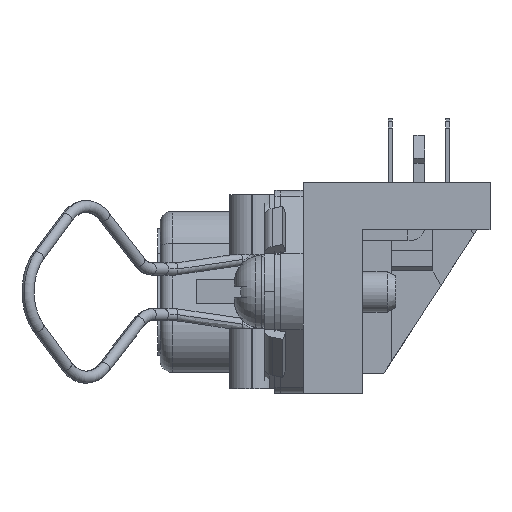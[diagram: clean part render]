
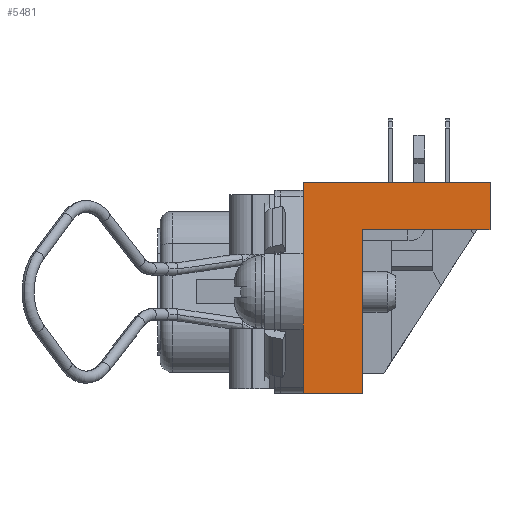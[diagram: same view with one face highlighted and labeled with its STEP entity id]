
A CAD part, left-side view. The second image highlights one B-rep face of the part: STEP entity #5481.
In plain terms, the highlighted planar face has unit normal (-1, 0, 0).
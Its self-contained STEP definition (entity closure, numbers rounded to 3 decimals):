
#349 = VERTEX_POINT ( 'NONE', #57065 ) ;
#599 = LINE ( 'NONE', #52407, #23680 ) ;
#966 = EDGE_CURVE ( 'NONE', #13131, #28922, #33584, .T. ) ;
#1679 = DIRECTION ( 'NONE',  ( 0., 1., 0. ) ) ;
#2400 = FACE_OUTER_BOUND ( 'NONE', #19809, .T. ) ;
#5481 = ADVANCED_FACE ( 'NONE', ( #2400 ), #42736, .T. ) ;
#5784 = VERTEX_POINT ( 'NONE', #31983 ) ;
#5996 = EDGE_CURVE ( 'NONE', #5784, #7111, #7366, .T. ) ;
#6347 = DIRECTION ( 'NONE',  ( 0., -1., 0. ) ) ;
#7072 = DIRECTION ( 'NONE',  ( 0., 0., -1. ) ) ;
#7111 = VERTEX_POINT ( 'NONE', #7312 ) ;
#7312 = CARTESIAN_POINT ( 'NONE',  ( -33.87, -3.2, 4.63 ) ) ;
#7366 = LINE ( 'NONE', #27711, #21121 ) ;
#9896 = ORIENTED_EDGE ( 'NONE', *, *, #27581, .F. ) ;
#9998 = VECTOR ( 'NONE', #7072, 1000. ) ;
#11233 = VECTOR ( 'NONE', #59322, 1000. ) ;
#11686 = ORIENTED_EDGE ( 'NONE', *, *, #966, .T. ) ;
#12831 = CARTESIAN_POINT ( 'NONE',  ( -33.87, 1.2, -7.55 ) ) ;
#12900 = LINE ( 'NONE', #30706, #9998 ) ;
#13131 = VERTEX_POINT ( 'NONE', #25813 ) ;
#13157 = CARTESIAN_POINT ( 'NONE',  ( -33.87, 1.2, 8.13 ) ) ;
#13348 = CARTESIAN_POINT ( 'NONE',  ( -33.87, -12.7, -7.55 ) ) ;
#15053 = CARTESIAN_POINT ( 'NONE',  ( -33.87, 1.2, -7.55 ) ) ;
#19342 = DIRECTION ( 'NONE',  ( -1., 0., 0. ) ) ;
#19809 = EDGE_LOOP ( 'NONE', ( #30233, #21172, #9896, #28627, #11686, #58733, #58671 ) ) ;
#21121 = VECTOR ( 'NONE', #1679, 1000. ) ;
#21172 = ORIENTED_EDGE ( 'NONE', *, *, #50723, .F. ) ;
#21972 = VECTOR ( 'NONE', #29286, 1000. ) ;
#23680 = VECTOR ( 'NONE', #38261, 1000. ) ;
#25813 = CARTESIAN_POINT ( 'NONE',  ( -33.87, 1.2, 0. ) ) ;
#26787 = VERTEX_POINT ( 'NONE', #13157 ) ;
#27581 = EDGE_CURVE ( 'NONE', #26787, #52259, #33927, .T. ) ;
#27711 = CARTESIAN_POINT ( 'NONE',  ( -33.87, 1.2, 4.63 ) ) ;
#28627 = ORIENTED_EDGE ( 'NONE', *, *, #49310, .T. ) ;
#28922 = VERTEX_POINT ( 'NONE', #12831 ) ;
#29286 = DIRECTION ( 'NONE',  ( 0., 0., -1. ) ) ;
#29505 = CARTESIAN_POINT ( 'NONE',  ( -33.87, -12.7, 8.13 ) ) ;
#30233 = ORIENTED_EDGE ( 'NONE', *, *, #5996, .F. ) ;
#30706 = CARTESIAN_POINT ( 'NONE',  ( -33.87, 1.2, -7.55 ) ) ;
#31983 = CARTESIAN_POINT ( 'NONE',  ( -33.87, -12.7, 4.63 ) ) ;
#33553 = CARTESIAN_POINT ( 'NONE',  ( -33.87, 1.2, -7.55 ) ) ;
#33584 = LINE ( 'NONE', #33553, #21972 ) ;
#33927 = LINE ( 'NONE', #42567, #38142 ) ;
#38142 = VECTOR ( 'NONE', #47998, 1000. ) ;
#38251 = CARTESIAN_POINT ( 'NONE',  ( -33.87, 1.2, -7.55 ) ) ;
#38261 = DIRECTION ( 'NONE',  ( 0., 0., 1. ) ) ;
#40480 = EDGE_CURVE ( 'NONE', #349, #7111, #599, .T. ) ;
#42567 = CARTESIAN_POINT ( 'NONE',  ( -33.87, 1.2, 8.13 ) ) ;
#42736 = PLANE ( 'NONE',  #47637 ) ;
#47637 = AXIS2_PLACEMENT_3D ( 'NONE', #15053, #19342, #51424 ) ;
#47998 = DIRECTION ( 'NONE',  ( 0., -1., 0. ) ) ;
#48128 = VECTOR ( 'NONE', #6347, 1000. ) ;
#49310 = EDGE_CURVE ( 'NONE', #26787, #13131, #12900, .T. ) ;
#50723 = EDGE_CURVE ( 'NONE', #52259, #5784, #59550, .T. ) ;
#51424 = DIRECTION ( 'NONE',  ( 0., 1., 0. ) ) ;
#52259 = VERTEX_POINT ( 'NONE', #29505 ) ;
#52407 = CARTESIAN_POINT ( 'NONE',  ( -33.87, -3.2, -7.55 ) ) ;
#56273 = EDGE_CURVE ( 'NONE', #28922, #349, #58911, .T. ) ;
#57065 = CARTESIAN_POINT ( 'NONE',  ( -33.87, -3.2, -7.55 ) ) ;
#58671 = ORIENTED_EDGE ( 'NONE', *, *, #40480, .T. ) ;
#58733 = ORIENTED_EDGE ( 'NONE', *, *, #56273, .T. ) ;
#58911 = LINE ( 'NONE', #38251, #48128 ) ;
#59322 = DIRECTION ( 'NONE',  ( 0., 0., -1. ) ) ;
#59550 = LINE ( 'NONE', #13348, #11233 ) ;
